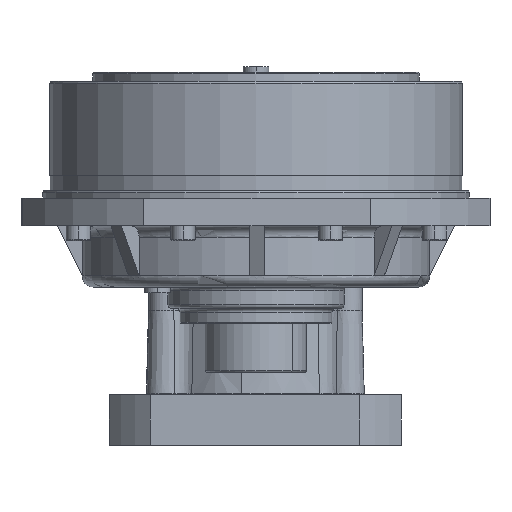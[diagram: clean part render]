
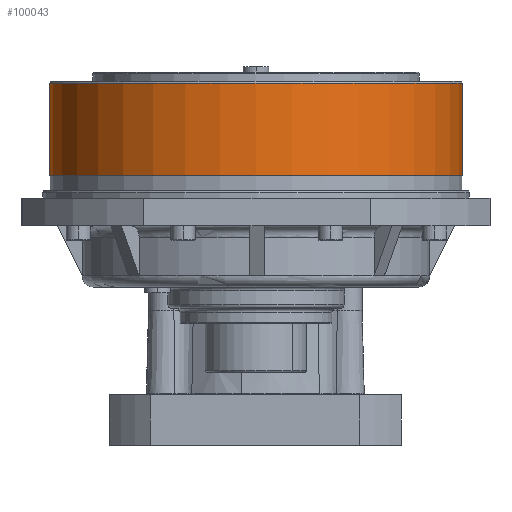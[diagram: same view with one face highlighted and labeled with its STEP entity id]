
A CAD part, front view. The second image highlights one B-rep face of the part: STEP entity #100043.
In plain terms, the highlighted cylindrical face has radius 111.25 mm (diameter 222.5 mm), a partial arc.
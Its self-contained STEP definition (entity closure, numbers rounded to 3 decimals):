
#6273 = VERTEX_POINT ( 'NONE', #136641 ) ;
#7753 = ORIENTED_EDGE ( 'NONE', *, *, #66359, .F. ) ;
#16767 = CARTESIAN_POINT ( 'NONE',  ( 0., 0., 10.95 ) ) ;
#25487 = ORIENTED_EDGE ( 'NONE', *, *, #66189, .F. ) ;
#29210 = AXIS2_PLACEMENT_3D ( 'NONE', #137686, #124666, #126097 ) ;
#31444 = CARTESIAN_POINT ( 'NONE',  ( 111.25, 0., 72.95 ) ) ;
#31821 = VECTOR ( 'NONE', #36856, 1000. ) ;
#36856 = DIRECTION ( 'NONE',  ( 0., 0., 1. ) ) ;
#41697 = CARTESIAN_POINT ( 'NONE',  ( 0., 0., 72.95 ) ) ;
#48511 = DIRECTION ( 'NONE',  ( 0., 0., 1. ) ) ;
#61154 = CARTESIAN_POINT ( 'NONE',  ( 111.25, 0., 10.95 ) ) ;
#66189 = EDGE_CURVE ( 'NONE', #69810, #123496, #91372, .T. ) ;
#66359 = EDGE_CURVE ( 'NONE', #6273, #96012, #125892, .T. ) ;
#69810 = VERTEX_POINT ( 'NONE', #85101 ) ;
#70324 = EDGE_CURVE ( 'NONE', #123496, #6273, #90273, .T. ) ;
#83147 = FACE_OUTER_BOUND ( 'NONE', #128500, .T. ) ;
#84352 = ORIENTED_EDGE ( 'NONE', *, *, #70324, .F. ) ;
#85101 = CARTESIAN_POINT ( 'NONE',  ( 111.25, 0., 23.2 ) ) ;
#90273 = LINE ( 'NONE', #124823, #31821 ) ;
#91325 = EDGE_CURVE ( 'NONE', #69810, #96012, #135501, .T. ) ;
#91372 = CIRCLE ( 'NONE', #29210, 111.25 ) ;
#96012 = VERTEX_POINT ( 'NONE', #31444 ) ;
#100043 = ADVANCED_FACE ( 'NONE', ( #83147 ), #127101, .T. ) ;
#100377 = VECTOR ( 'NONE', #116710, 1000. ) ;
#105499 = DIRECTION ( 'NONE',  ( -1., 0., 0. ) ) ;
#109907 = CARTESIAN_POINT ( 'NONE',  ( -111.25, 0., 23.2 ) ) ;
#116007 = DIRECTION ( 'NONE',  ( 0., 0., 1. ) ) ;
#116668 = AXIS2_PLACEMENT_3D ( 'NONE', #41697, #116007, #139123 ) ;
#116710 = DIRECTION ( 'NONE',  ( 0., 0., 1. ) ) ;
#120665 = ORIENTED_EDGE ( 'NONE', *, *, #91325, .T. ) ;
#123496 = VERTEX_POINT ( 'NONE', #109907 ) ;
#124666 = DIRECTION ( 'NONE',  ( 0., 0., -1. ) ) ;
#124823 = CARTESIAN_POINT ( 'NONE',  ( -111.25, 0., 10.95 ) ) ;
#125892 = CIRCLE ( 'NONE', #116668, 111.25 ) ;
#125928 = AXIS2_PLACEMENT_3D ( 'NONE', #16767, #48511, #105499 ) ;
#126097 = DIRECTION ( 'NONE',  ( -1., 0., 0. ) ) ;
#127101 = CYLINDRICAL_SURFACE ( 'NONE', #125928, 111.25 ) ;
#128500 = EDGE_LOOP ( 'NONE', ( #25487, #120665, #7753, #84352 ) ) ;
#135501 = LINE ( 'NONE', #61154, #100377 ) ;
#136641 = CARTESIAN_POINT ( 'NONE',  ( -111.25, 0., 72.95 ) ) ;
#137686 = CARTESIAN_POINT ( 'NONE',  ( 0., 0., 23.2 ) ) ;
#139123 = DIRECTION ( 'NONE',  ( -1., 0., 0. ) ) ;
